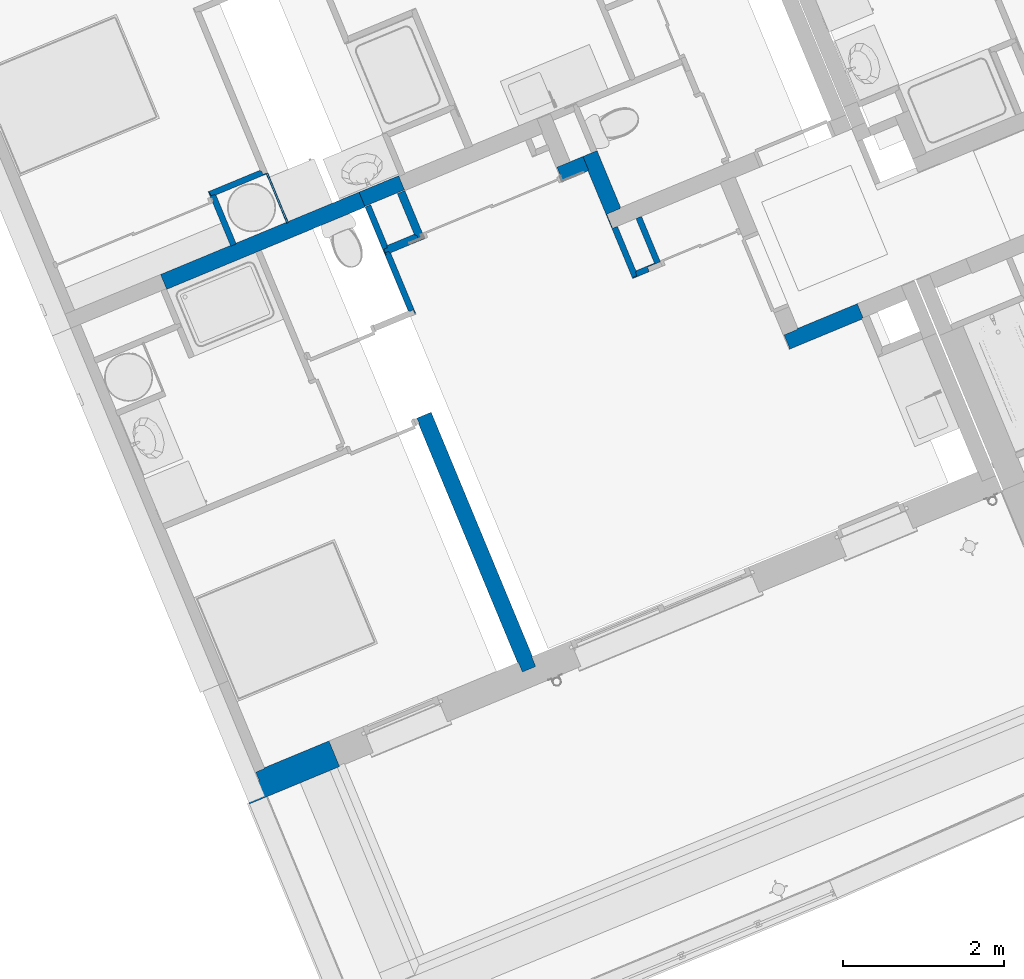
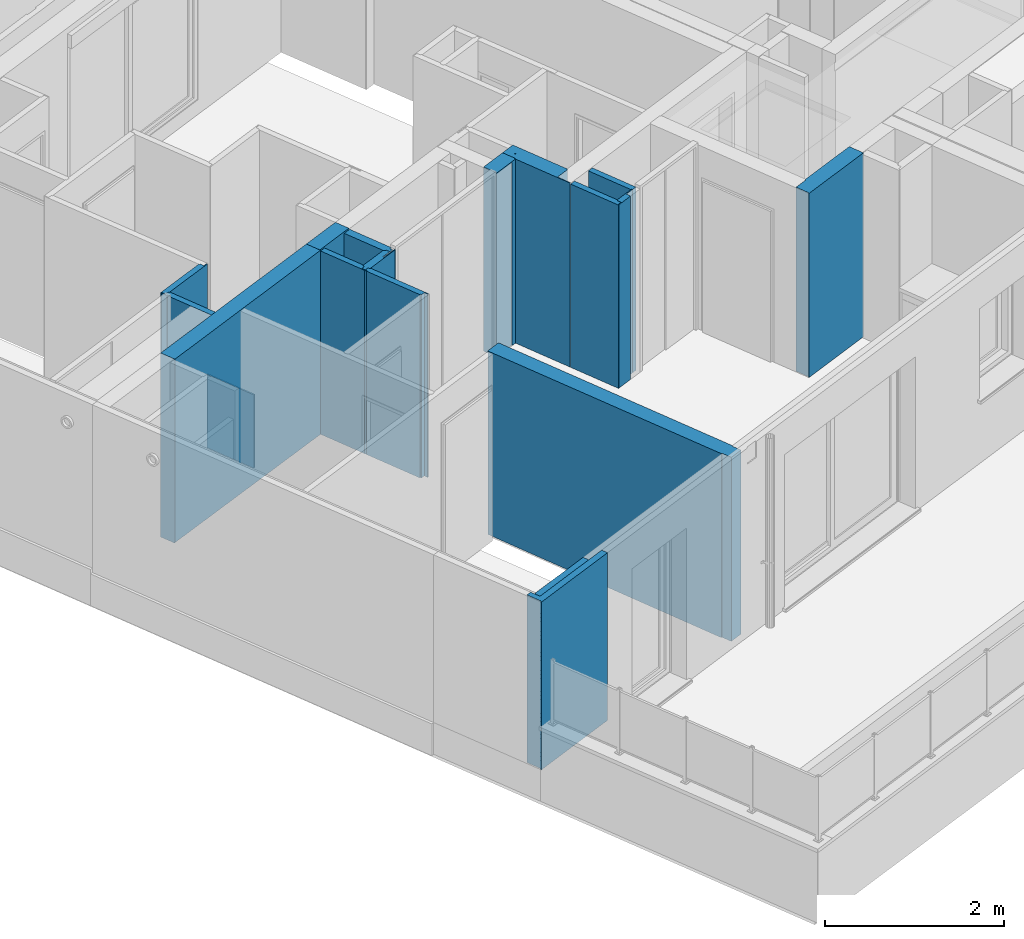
# One storey, part 36 of 119: 17 walls.
"""IFC2X3 building model written with IfcOpenShell, lengths in metres."""

from ifc_helpers import new_model, entity, si_unit, converted_unit, derived_unit, money_unit, direction, frame, origin_with_axes, place, context, subcontext, project, spatial, faceted_brep, material, material_list, type_object, element, save


model = new_model("IFC2X3")

# Units and contexts
model_context = context("Model", 3, precision=1e-05, world=origin_with_axes(), true_north=direction((0.0, 1.0)))
body_context = subcontext(model_context, "Body", "Model", "MODEL_VIEW")
ifc_project = project(units=[si_unit("LENGTHUNIT", "METRE"), si_unit("AREAUNIT", "SQUARE_METRE"), si_unit("VOLUMEUNIT", "CUBIC_METRE"), converted_unit("PLANEANGLEUNIT", "DEGREE", entity("IfcPlaneAngleMeasure", 0.0174532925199), si_unit("PLANEANGLEUNIT", "RADIAN"), dimensions=[0, 0, 0, 0, 0, 0, 0]), si_unit("SOLIDANGLEUNIT", "STERADIAN"), money_unit("EUR"), converted_unit("TIMEUNIT", "Year", entity("IfcTimeMeasure", 31556926.0), si_unit("TIMEUNIT", "SECOND"), dimensions=[0, 0, 1, 0, 0, 0, 0]), si_unit("MASSUNIT", "GRAM", prefix="KILO"), si_unit("THERMODYNAMICTEMPERATUREUNIT", "DEGREE_CELSIUS"), si_unit("LUMINOUSINTENSITYUNIT", "LUMEN"), si_unit("ENERGYUNIT", "JOULE", prefix="MEGA"), derived_unit("THERMALCONDUCTANCEUNIT", [(si_unit("POWERUNIT", "WATT"), 1), (si_unit("LENGTHUNIT", "METRE"), -1), (si_unit("THERMODYNAMICTEMPERATUREUNIT", "KELVIN"), -1)]), derived_unit("SPECIFICHEATCAPACITYUNIT", [(si_unit("ENERGYUNIT", "JOULE"), 1), (si_unit("MASSUNIT", "GRAM", prefix="KILO"), -1), (si_unit("THERMODYNAMICTEMPERATUREUNIT", "KELVIN"), -1)]), derived_unit("MASSDENSITYUNIT", [(si_unit("MASSUNIT", "GRAM", prefix="KILO"), 1), (si_unit("VOLUMEUNIT", "CUBIC_METRE"), -1)])], contexts=[model_context])

# Site, building, storey
site_placement = place(None, origin_with_axes())
site = spatial("IfcSite", under=ifc_project, at=site_placement, Name="Site", CompositionType="ELEMENT")
building_placement = place(site_placement, origin_with_axes())
building = spatial("IfcBuilding", under=site, at=building_placement, Name="Bâtiment", CompositionType="ELEMENT")
storey_placement = place(building_placement, origin_with_axes())
storey = spatial("IfcBuildingStorey", under=building, at=storey_placement, Name="Rez-de-chaussée", CompositionType="ELEMENT", Elevation=0.0)

# Walls
ifc_material_1 = material(Name="Finition int - Plaque de plâtre")
ifc_material_2 = material(Name="Isolation - Laine de roche")
ifc_material_list_1 = material_list([ifc_material_1, ifc_material_2, ifc_material_1])
wall_type_1 = type_object("IfcWallType", Name="3 - Cloison 72mm Placostil 74", PredefinedType="USERDEFINED")
wall_1_placement = place(storey_placement, frame((-28.9087260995, -22.4949369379, 0.0), z_axis=(0.0, 0.0, 1.0), x_axis=(-0.383112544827, 0.923701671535, 0.0)))
element("IfcWall", 1, at=wall_1_placement, inside=storey, type_object=wall_type_1, material=ifc_material_list_1, Name="Cloison Placostil 72/48", ObjectType="PARTITIONING", context=body_context, shape_type="Brep", body=[
    faceted_brep([(0.0740000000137, 0.061, 0.0), (0.826636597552, 0.061, 0.0), (0.826636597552, 0.061, 2.5), (0.0740000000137, 0.061, 2.5), (0.0740000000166, 0.074, 0.0), (0.82663659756, 0.074, 0.0), (0.82663659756, 0.074, 2.5), (0.0740000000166, 0.074, 2.5)], [[[0, 1, 2, 3]], [[4, 5, 1, 0]], [[5, 6, 2, 1]], [[3, 2, 6, 7]], [[7, 4, 0, 3]], [[7, 6, 5, 4]]]),
    faceted_brep([(0.0610000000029, 0.013, 0.0), (0.852636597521, 0.013, 0.0), (0.852636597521, 0.013, 2.5), (0.0610000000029, 0.013, 2.5), (0.0610000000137, 0.061, 0.0), (0.852636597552, 0.061, 0.0), (0.852636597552, 0.061, 2.5), (0.0610000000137, 0.061, 2.5)], [[[0, 1, 2, 3]], [[4, 5, 1, 0]], [[5, 6, 2, 1]], [[3, 2, 6, 7]], [[7, 4, 0, 3]], [[7, 6, 5, 4]]]),
    faceted_brep([(0.013, 0.0, 0.0), (0.826636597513, 0.0, 0.0), (0.826636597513, 0.0, 2.5), (0.013, 0.0, 2.5), (0.0130000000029, 0.013, 0.0), (0.826636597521, 0.013, 0.0), (0.826636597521, 0.013, 2.5), (0.0130000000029, 0.013, 2.5)], [[[0, 1, 2, 3]], [[4, 5, 1, 0]], [[5, 6, 2, 1]], [[3, 2, 6, 7]], [[7, 4, 0, 3]], [[7, 6, 5, 4]]]),
])
wall_2_placement = place(storey_placement, frame((-26.2126020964, -22.0522410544, 0.0), z_axis=(0.0, 0.0, 1.0), x_axis=(0.923701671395, 0.383112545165, 0.0)))
element("IfcWall", 2, at=wall_2_placement, inside=storey, type_object=wall_type_1, material=ifc_material_list_1, Name="Cloison Placostil 72/48", ObjectType="PARTITIONING", context=body_context, shape_type="Brep", body=[
    faceted_brep([(0.074000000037, 0.074, 0.0), (0.336999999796, 0.074, 0.0), (0.33699999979, 0.061, 0.0), (0.0740000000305, 0.061, 0.0), (0.074000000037, 0.074, 2.5), (0.336999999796, 0.074, 2.5), (0.33699999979, 0.061, 2.5), (0.0740000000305, 0.061, 2.5)], [[[0, 1, 2, 3]], [[4, 5, 1, 0]], [[6, 2, 1, 5]], [[3, 2, 6, 7]], [[7, 4, 0, 3]], [[7, 6, 5, 4]]]),
    faceted_brep([(0.0610000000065, 0.013, 0.0), (0.223999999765, 0.0130000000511, 0.0), (0.223999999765, 0.0130000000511, 2.5), (0.0610000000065, 0.013, 2.5), (0.0610000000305, 0.061, 0.0), (0.223999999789, 0.0610000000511, 0.0), (0.223999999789, 0.0610000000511, 2.5), (0.0610000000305, 0.061, 2.5)], [[[0, 1, 2, 3]], [[4, 5, 1, 0]], [[5, 6, 2, 1]], [[3, 2, 6, 7]], [[3, 7, 4, 0]], [[7, 6, 5, 4]]]),
    faceted_brep([(0.013, 0.0, 0.0), (0.223999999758, 0.0, 0.0), (0.223999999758, 0.0, 2.5), (0.013, 0.0, 2.5), (0.0130000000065, 0.013, 0.0), (0.223999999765, 0.0130000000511, 0.0), (0.223999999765, 0.0130000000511, 2.5), (0.0130000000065, 0.013, 2.5)], [[[0, 1, 2, 3]], [[4, 5, 1, 0]], [[5, 6, 2, 1]], [[3, 2, 6, 7]], [[3, 7, 4, 0]], [[7, 6, 5, 4]]]),
])
wall_3_placement = place(storey_placement, frame((-31.2182617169, -21.6405615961, 0.0), z_axis=(0.0, 0.0, 1.0), x_axis=(-0.383112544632, 0.923701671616, 0.0)))
element("IfcWall", 3, at=wall_3_placement, inside=storey, type_object=wall_type_1, material=ifc_material_list_1, Name="Cloison Placostil 72/48", ObjectType="PARTITIONING", context=body_context, shape_type="Brep", body=[
    faceted_brep([(0.589000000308, -0.013, 2.5), (0.58900000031, 0.0, 2.5), (-0.01, 0.0, 2.5), (-0.00999999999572, -0.013, 2.5), (0.589000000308, -0.013, 0.0), (0.58900000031, 0.0, 0.0), (-0.01, 0.0, 0.0), (-0.00999999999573, -0.013, 0.0)], [[[0, 1, 2, 3]], [[1, 0, 4, 5]], [[1, 5, 6, 2]], [[7, 3, 2, 6]], [[4, 0, 3, 7]], [[5, 4, 7, 6]]]),
    faceted_brep([(0.711000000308, -0.013, 2.5), (0.71100000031, 0.0, 2.5), (0.63700000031, 0.0, 2.5), (0.637000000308, -0.013, 2.5), (0.711000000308, -0.013, 0.0), (0.71100000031, 0.0, 0.0), (0.63700000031, 0.0, 0.0), (0.637000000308, -0.013, 0.0)], [[[0, 1, 2, 3]], [[1, 0, 4, 5]], [[1, 5, 6, 2]], [[7, 3, 2, 6]], [[4, 0, 3, 7]], [[5, 4, 7, 6]]]),
    faceted_brep([(0.663000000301, -0.061, 2.5), (0.663000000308, -0.013, 2.5), (-0.00999999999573, -0.013, 2.5), (-0.00999999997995, -0.061, 2.5), (0.663000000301, -0.061, 0.0), (0.663000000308, -0.013, 0.0), (-0.00999999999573, -0.013, 0.0), (-0.00999999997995, -0.061, 0.0)], [[[0, 1, 2, 3]], [[1, 0, 4, 5]], [[1, 5, 6, 2]], [[7, 3, 2, 6]], [[4, 0, 3, 7]], [[5, 4, 7, 6]]]),
    faceted_brep([(0.650000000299, -0.074, 2.5), (0.650000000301, -0.061, 2.5), (-0.00999999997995, -0.061, 2.5), (-0.00999999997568, -0.074, 2.5), (0.650000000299, -0.074, 0.0), (0.650000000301, -0.061, 0.0), (-0.00999999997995, -0.061, 0.0), (-0.00999999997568, -0.074, 0.0)], [[[0, 1, 2, 3]], [[1, 0, 4, 5]], [[1, 5, 6, 2]], [[7, 3, 2, 6]], [[4, 0, 3, 7]], [[5, 4, 7, 6]]]),
])
wall_4_placement = place(storey_placement, frame((-26.1715406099, -21.3055376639, 0.0), z_axis=(0.0, 0.0, 1.0), x_axis=(0.383112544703, -0.923701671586, 0.0)))
element("IfcWall", 4, at=wall_4_placement, inside=storey, type_object=wall_type_1, material=ifc_material_list_1, Name="Cloison Placostil 72/48", ObjectType="PARTITIONING", context=body_context, shape_type="Brep", body=[
    faceted_brep([(0.0, 0.061, 2.5), (0.612999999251, 0.061, 2.5), (0.612999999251, 0.074, 2.5), (0.0, 0.074, 2.5), (0.0, 0.061, 0.0), (0.612999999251, 0.061, 0.0), (0.612999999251, 0.074, 0.0), (0.0, 0.074, 0.0)], [[[0, 1, 2, 3]], [[4, 5, 1, 0]], [[5, 6, 2, 1]], [[3, 2, 6, 7]], [[0, 3, 7, 4]], [[7, 6, 5, 4]]]),
    faceted_brep([(0.0, 0.061, 0.0), (0.61299999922, 0.061, 0.0), (0.612999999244, 0.013, 0.0), (0.0, 0.013, 0.0), (0.0, 0.061, 2.5), (0.61299999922, 0.061, 2.5), (0.612999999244, 0.013, 2.5), (0.0, 0.013, 2.5)], [[[0, 1, 2, 3]], [[4, 5, 1, 0]], [[6, 2, 1, 5]], [[3, 2, 6, 7]], [[7, 4, 0, 3]], [[7, 6, 5, 4]]]),
    faceted_brep([(0.0, 0.013, 0.0), (0.599999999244, 0.013, 0.0), (0.59999999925, 0.0, 0.0), (0.0, 0.0, 0.0), (0.0, 0.013, 2.5), (0.599999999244, 0.013, 2.5), (0.59999999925, 0.0, 2.5), (0.0, 0.0, 2.5)], [[[0, 1, 2, 3]], [[4, 5, 1, 0]], [[6, 2, 1, 5]], [[3, 2, 6, 7]], [[7, 4, 0, 3]], [[7, 6, 5, 4]]]),
])
wall_5_placement = place(storey_placement, frame((-30.8490440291, -20.7036228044, 0.0), z_axis=(0.0, 0.0, 1.0), x_axis=(-0.923701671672, -0.383112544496, 0.0)))
element("IfcWall", 5, at=wall_5_placement, inside=storey, type_object=wall_type_1, material=ifc_material_list_1, Name="Cloison Placostil 72/48", ObjectType="PARTITIONING", context=body_context, shape_type="Brep", body=[
    faceted_brep([(0.638999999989, 0.074, 0.0), (0.638999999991, 0.061, 0.0), (-0.061000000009, 0.061, 0.0), (-0.0610000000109, 0.074, 0.0), (0.638999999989, 0.074, 2.5), (0.638999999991, 0.061, 2.5), (-0.061000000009, 0.061, 2.5), (-0.0610000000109, 0.074, 2.5)], [[[0, 1, 2, 3]], [[1, 0, 4, 5]], [[1, 5, 6, 2]], [[7, 3, 2, 6]], [[4, 0, 3, 7]], [[5, 4, 7, 6]]]),
    faceted_brep([(0.686999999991, 0.061, 0.0), (0.686999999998, 0.013, 0.0), (-0.0130000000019, 0.013, 0.0), (-0.013000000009, 0.061, 0.0), (0.686999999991, 0.061, 2.5), (0.686999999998, 0.013, 2.5), (-0.0130000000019, 0.013, 2.5), (-0.013000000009, 0.061, 2.5)], [[[0, 1, 2, 3]], [[1, 0, 4, 5]], [[1, 5, 6, 2]], [[7, 3, 2, 6]], [[4, 0, 3, 7]], [[5, 4, 7, 6]]]),
    faceted_brep([(0.699999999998, 0.013, 0.0), (0.7, 0.0, 0.0), (0.0, 0.0, 0.0), (0.0, 0.013, 0.0), (0.699999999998, 0.013, 2.5), (0.7, 0.0, 2.5), (0.0, 0.0, 2.5), (0.0, 0.013, 2.5)], [[[0, 1, 2, 3]], [[1, 0, 4, 5]], [[1, 5, 6, 2]], [[7, 3, 2, 6]], [[4, 0, 3, 7]], [[5, 4, 7, 6]]]),
])
wall_6_placement = place(storey_placement, frame((-26.4708199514, -21.429666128, 0.0), z_axis=(0.0, 0.0, 1.0), x_axis=(0.383112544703, -0.923701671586, 0.0)))
element("IfcWall", 6, at=wall_6_placement, inside=storey, type_object=wall_type_1, material=ifc_material_list_1, Name="Cloison Placostil 72/48", ObjectType="PARTITIONING", context=body_context, shape_type="Brep", body=[
    faceted_brep([(0.612999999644, 0.074, 0.0), (0.61299999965, 0.061, 0.0), (0.0, 0.061, 0.0), (0.0, 0.074, 0.0), (0.612999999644, 0.074, 2.5), (0.61299999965, 0.061, 2.5), (0.0, 0.061, 2.5), (0.0, 0.074, 2.5)], [[[0, 1, 2, 3]], [[1, 0, 4, 5]], [[1, 5, 6, 2]], [[7, 3, 2, 6]], [[4, 0, 3, 7]], [[5, 4, 7, 6]]]),
    faceted_brep([(0.66099999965, 0.061, 0.0), (0.660999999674, 0.013, 0.0), (0.0, 0.013, 0.0), (0.0, 0.061, 0.0), (0.66099999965, 0.061, 2.5), (0.660999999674, 0.013, 2.5), (0.0, 0.013, 2.5), (0.0, 0.061, 2.5)], [[[0, 1, 2, 3]], [[1, 0, 4, 5]], [[1, 5, 6, 2]], [[7, 3, 2, 6]], [[4, 0, 3, 7]], [[5, 4, 7, 6]]]),
    faceted_brep([(0.673999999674, 0.013, 0.0), (0.67399999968, 0.0, 0.0), (0.0, 0.0, 0.0), (0.0, 0.013, 0.0), (0.673999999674, 0.013, 2.5), (0.67399999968, 0.0, 2.5), (0.0, 0.0, 2.5), (0.0, 0.013, 2.5)], [[[0, 1, 2, 3]], [[1, 0, 4, 5]], [[1, 5, 6, 2]], [[7, 3, 2, 6]], [[4, 0, 3, 7]], [[5, 4, 7, 6]]]),
])
ifc_material_3 = material(Name="Finition int - Enduit plâtre")
ifc_material_4 = material(Name="Béton")
ifc_material_list_2 = material_list([ifc_material_3, ifc_material_4, ifc_material_3])
wall_type_2 = type_object("IfcWallType", Name="2 - Murs Béton 18 + Enduit 2 Faces 200", PredefinedType="USERDEFINED")
wall_7_placement = place(storey_placement, frame((-32.0883886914, -22.0014536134, 0.0), z_axis=(0.0, 0.0, 1.0), x_axis=(0.92370167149, 0.383112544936, 0.0)))
element("IfcWall", 7, at=wall_7_placement, inside=storey, type_object=wall_type_2, material=ifc_material_list_2, Name="M_Ext-008", ObjectType="SOLIDWALL", context=body_context, shape_type="Brep", body=[
    faceted_brep([(2.67399999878, 0.0, 2.51), (2.67399999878, -0.01, 2.51), (2.67399999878, -0.01, 0.0), (2.67399999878, 0.0, 0.0), (0.0, -0.01, 2.51), (0.0, 0.0, 2.51), (0.0, -0.01, 0.0), (0.941999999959, -0.01, 0.0), (0.941999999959, -0.01, 2.5), (1.01599999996, -0.01, 2.5), (1.01599999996, -0.01, 0.0), (1.69600000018, -0.01, 0.0), (1.69600000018, -0.01, 1.0), (1.71600000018, -0.01, 1.0), (1.71600000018, -0.01, 0.0), (1.71600000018, 0.0, 0.0), (1.71600000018, 0.0, 1.0), (1.69600000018, 0.0, 1.0), (1.69600000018, 0.0, 0.0), (1.01599999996, 0.0, 0.0), (1.01599999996, 0.0, 2.5), (0.941999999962, 0.0, 2.5), (0.941999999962, 0.0, 0.0), (0.0, 0.0, 0.0)], [[[0, 1, 2, 3]], [[4, 1, 0, 5]], [[1, 4, 6, 7, 8, 9, 10, 11, 12, 13, 14, 2]], [[2, 14, 15, 3]], [[5, 0, 3, 15, 16, 17, 18, 19, 20, 21, 22, 23]], [[4, 5, 23, 6]], [[23, 22, 7, 6]], [[21, 8, 7, 22]], [[20, 9, 8, 21]], [[19, 10, 9, 20]], [[19, 18, 11, 10]], [[17, 12, 11, 18]], [[16, 13, 12, 17]], [[15, 14, 13, 16]]]),
    faceted_brep([(2.67399999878, -0.01, 2.51), (2.67399999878, -0.19, 2.51), (2.67399999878, -0.19, 0.0), (2.67399999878, -0.01, 0.0), (0.0, -0.19, 2.51), (0.0, -0.01, 2.51), (0.0, -0.19, 0.0), (0.0, -0.01, 0.0)], [[[0, 1, 2, 3]], [[4, 1, 0, 5]], [[1, 4, 6, 2]], [[7, 3, 2, 6]], [[5, 0, 3, 7]], [[4, 5, 7, 6]]]),
    faceted_brep([(0.0, -0.2, 0.02), (2.67399998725, -0.200000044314, 0.02), (2.67399999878, -0.2, 2.51), (0.0, -0.2, 2.51), (0.0, -0.193021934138, 0.02), (2.67399998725, -0.200000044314, 0.0), (2.67399999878, -0.19, 0.0), (2.67399999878, -0.19, 2.51), (0.0, -0.19, 2.51), (0.0, -0.19, 0.0), (0.0, -0.193021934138, 0.0)], [[[0, 1, 2, 3]], [[1, 0, 4]], [[1, 5, 6, 7, 2]], [[8, 3, 2, 7]], [[4, 0, 3, 8, 9, 10]], [[5, 1, 4, 10]], [[5, 10, 9, 6]], [[9, 8, 7, 6]]]),
])
wall_8_placement = place(storey_placement, frame((-27.3367270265, -27.0787857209, 0.0), z_axis=(0.0, 0.0, 1.0), x_axis=(-0.383112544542, 0.923701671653, 0.0)))
element("IfcWall", 8, at=wall_8_placement, inside=storey, type_object=wall_type_2, material=ifc_material_list_2, Name="M_Ext-008", ObjectType="SOLIDWALL", context=body_context, shape_type="Brep", body=[
    faceted_brep([(3.56273685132, 0.19, 0.02), (0.344999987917, 0.19, 0.02), (0.344999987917, 0.19, 2.51), (3.63673685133, 0.19, 2.51), (3.63673685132, 0.19, 2.5), (3.56273685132, 0.19, 2.5), (3.56273685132, 0.180224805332, 0.02), (0.344999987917, 0.19, 0.0), (0.344999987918, 0.18, 0.0), (0.344999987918, 0.18, 2.51), (3.63673685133, 0.18, 2.51), (3.63673685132, 0.18, 2.5), (3.56273685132, 0.18, 2.5), (3.56273685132, 0.18, 0.0), (3.56273685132, 0.180224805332, 0.0)], [[[0, 1, 2, 3, 4, 5]], [[1, 0, 6]], [[1, 7, 8, 9, 2]], [[2, 9, 10, 3]], [[3, 10, 11, 4]], [[11, 12, 5, 4]], [[6, 0, 5, 12, 13, 14]], [[14, 7, 1, 6]], [[7, 14, 13, 8]], [[10, 9, 8, 13, 12, 11]]]),
    faceted_brep([(3.63673685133, 0.0, 2.51), (0.214999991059, 0.0, 2.51), (0.214999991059, 0.0, 0.0), (3.63673685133, 0.0, 0.0), (3.63673685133, 0.0, 2.5), (0.214999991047, 0.18, 2.51), (3.63673685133, 0.18, 2.51), (0.214999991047, 0.18, 0.0), (3.63673685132, 0.18, 0.0), (3.63673685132, 0.18, 2.5)], [[[0, 1, 2, 3, 4]], [[5, 1, 0, 6]], [[1, 5, 7, 2]], [[3, 2, 7, 8]], [[3, 8, 9, 4]], [[6, 0, 4, 9]], [[5, 6, 9, 8, 7]]]),
    faceted_brep([(3.63673685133, -0.01, 2.51), (0.344999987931, -0.01, 2.51), (0.344999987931, -0.01, 0.0), (3.63673685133, -0.01, 0.0), (3.63673685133, -0.01, 2.5), (0.34499998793, 0.0, 2.51), (3.63673685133, 0.0, 2.51), (0.34499998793, 0.0, 0.0), (3.63673685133, 0.0, 0.0), (3.63673685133, 0.0, 2.5)], [[[0, 1, 2, 3, 4]], [[5, 1, 0, 6]], [[1, 5, 7, 2]], [[3, 2, 7, 8]], [[3, 8, 9, 4]], [[6, 0, 4, 9]], [[5, 6, 9, 8, 7]]]),
])
wall_9_placement = place(storey_placement, frame((-26.46541406, -21.4165979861, 0.0), z_axis=(0.0, 0.0, 1.0), x_axis=(-0.383112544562, 0.923701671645, 0.0)))
element("IfcWall", 9, at=wall_9_placement, inside=storey, type_object=wall_type_2, material=ifc_material_list_2, Name="M_Ext-008", ObjectType="SOLIDWALL", context=body_context, shape_type="Brep", body=[
    faceted_brep([(0.776636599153, 0.0, 2.51), (0.0, 0.0, 2.51), (0.0, 0.0, 0.0), (0.776636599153, 0.0, 0.0), (0.0, 0.01, 2.51), (0.77663659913, 0.01, 2.51), (0.0, 0.01, 0.0), (0.77663659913, 0.01, 0.0)], [[[0, 1, 2, 3]], [[4, 1, 0, 5]], [[1, 4, 6, 2]], [[7, 3, 2, 6]], [[5, 0, 3, 7]], [[4, 5, 7, 6]]]),
    faceted_brep([(0.956636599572, -0.18, 2.51), (0.829521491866, -0.18, 2.51), (0.620469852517, -0.18, 2.51), (0.180000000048, -0.18, 2.51), (0.180000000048, -0.18, 0.0), (0.956636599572, -0.18, 0.0), (0.18, 0.0, 2.51), (0.820532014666, -0.068, 2.51), (0.832919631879, -0.0610650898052, 2.51), (0.832721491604, -0.068, 2.51), (0.956636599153, 0.0, 2.51), (0.18, 0.0, 0.0), (0.956636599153, 0.0, 0.0), (0.820532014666, -0.068, 2.52), (0.832919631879, -0.0610650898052, 2.52), (0.832721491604, -0.068, 2.52)], [[[0, 1, 2, 3, 4, 5]], [[6, 3, 2, 7, 8, 9, 1, 0, 10]], [[7, 2, 1, 9]], [[3, 6, 11, 4]], [[12, 5, 4, 11]], [[10, 0, 5, 12]], [[7, 13, 14, 8]], [[14, 15, 9, 8]], [[6, 10, 12, 11]], [[13, 7, 9, 15]], [[14, 13, 15]]]),
    faceted_brep([(0.602607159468, -0.19, 2.51), (0.190000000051, -0.19, 2.51), (0.190000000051, -0.19, 0.0), (0.956636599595, -0.19, 0.0), (0.956636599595, -0.19, 2.51), (0.829235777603, -0.19, 2.51), (0.190000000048, -0.18, 2.51), (0.620469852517, -0.18, 2.51), (0.190000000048, -0.18, 0.0), (0.956636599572, -0.18, 0.0), (0.956636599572, -0.18, 2.51), (0.829521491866, -0.18, 2.51)], [[[0, 1, 2, 3, 4, 5]], [[6, 1, 0, 7]], [[1, 6, 8, 2]], [[9, 3, 2, 8]], [[10, 4, 3, 9]], [[11, 5, 4, 10]], [[7, 0, 5, 11]], [[6, 7, 11, 10, 9, 8]]]),
])
wall_10_placement = place(storey_placement, frame((-24.1618163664, -22.6847293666, 0.0), z_axis=(0.0, 0.0, 1.0), x_axis=(0.923701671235, 0.383112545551, 0.0)))
element("IfcWall", 10, at=wall_10_placement, inside=storey, type_object=wall_type_2, material=ifc_material_list_2, Name="M_Ext-008", ObjectType="SOLIDWALL", context=body_context, shape_type="Brep", body=[
    faceted_brep([(0.810000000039, 0.00929352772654, 0.02), (0.810000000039, 0.00999999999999, 0.02), (0.810000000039, 0.01, 2.51), (0.810000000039, 0.0, 2.51), (0.810000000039, 0.0, 0.0), (0.810000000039, 0.00929352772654, 0.0), (0.0100000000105, 0.01, 0.02), (0.0100000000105, 0.01, 0.0), (0.0, 0.01, 0.0), (0.0, 0.01, 2.51), (0.0, 0.0, 2.51), (0.0, 0.0, 0.0)], [[[0, 1, 2, 3, 4, 5]], [[1, 0, 6]], [[6, 7, 8, 9, 2, 1]], [[2, 9, 10, 3]], [[11, 4, 3, 10]], [[8, 7, 5, 4, 11]], [[7, 6, 0, 5]], [[8, 11, 10, 9]]]),
    faceted_brep([(0.810000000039, 0.0, 2.51), (0.810000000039, -0.18, 2.51), (0.810000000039, -0.18, 0.0), (0.810000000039, 0.0, 0.0), (-0.180000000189, -0.18, 2.51), (-0.18, 0.0, 2.51), (-0.180000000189, -0.18, 0.0), (-0.18, 0.0, 0.0)], [[[0, 1, 2, 3]], [[4, 1, 0, 5]], [[1, 4, 6, 2]], [[7, 3, 2, 6]], [[5, 0, 3, 7]], [[4, 5, 7, 6]]]),
    faceted_brep([(0.810000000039, -0.18, 2.51), (0.810000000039, -0.19, 2.51), (0.810000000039, -0.19, 0.0), (0.810000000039, -0.18, 0.0), (-0.190000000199, -0.19, 2.51), (-0.190000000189, -0.18, 2.51), (-0.190000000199, -0.19, 0.0), (-0.190000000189, -0.18, 0.0)], [[[0, 1, 2, 3]], [[4, 1, 0, 5]], [[1, 4, 6, 2]], [[7, 3, 2, 6]], [[5, 0, 3, 7]], [[4, 5, 7, 6]]]),
])
wall_type_3 = type_object("IfcWallType", Name="3 - Cloison Gaine Technique 72mm 74", PredefinedType="USERDEFINED")
wall_11_placement = place(storey_placement, frame((-29.22542095, -21.7313713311, 0.0), z_axis=(0.0, 0.0, 1.0), x_axis=(-0.383112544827, 0.923701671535, 0.0)))
element("IfcWall", 11, at=wall_11_placement, inside=storey, type_object=wall_type_3, material=ifc_material_list_1, Name="Cloison Placostil 72/48", ObjectType="PARTITIONING", context=body_context, shape_type="Brep", body=[
    faceted_brep([(0.0260000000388, 0.061, 0.0), (0.026000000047, 0.074, 0.0), (0.6473634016, 0.074, 0.0), (0.6473634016, 0.061, 0.0), (0.0260000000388, 0.061, 2.5), (0.026000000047, 0.074, 2.5), (0.6473634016, 0.074, 2.5), (0.6473634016, 0.061, 2.5)], [[[0, 1, 2, 3]], [[4, 5, 1, 0]], [[1, 5, 6, 2]], [[7, 3, 2, 6]], [[4, 0, 3, 7]], [[5, 4, 7, 6]]]),
    faceted_brep([(0.0740000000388, 0.061, 0.0), (0.6473634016, 0.061, 0.0), (0.6473634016, 0.013, 0.0), (0.0740000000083, 0.013, 0.0), (0.0740000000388, 0.061, 2.5), (0.6473634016, 0.061, 2.5), (0.6473634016, 0.013, 2.5), (0.0740000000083, 0.013, 2.5)], [[[0, 1, 2, 3]], [[4, 5, 1, 0]], [[2, 1, 5, 6]], [[3, 2, 6, 7]], [[4, 0, 3, 7]], [[7, 6, 5, 4]]]),
    faceted_brep([(0.100000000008, 0.013, 0.0), (0.6473634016, 0.013, 0.0), (0.6473634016, 0.0, 0.0), (0.1, 0.0, 0.0), (0.100000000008, 0.013, 2.5), (0.6473634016, 0.013, 2.5), (0.6473634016, 0.0, 2.5), (0.1, 0.0, 2.5)], [[[0, 1, 2, 3]], [[4, 5, 1, 0]], [[2, 1, 5, 6]], [[3, 2, 6, 7]], [[4, 0, 3, 7]], [[7, 6, 5, 4]]]),
])
ifc_material_list_3 = material_list([ifc_material_3, ifc_material_4])
wall_type_4 = type_object("IfcWallType", Name="2 - Murs Béton 18 + Enduit 1 Face 190", PredefinedType="USERDEFINED")
wall_12_placement = place(storey_placement, frame((-26.7591221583, -20.7084544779, 0.0), z_axis=(0.0, 0.0, 1.0), x_axis=(-0.923701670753, -0.383112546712, 0.0)))
element("IfcWall", 12, at=wall_12_placement, inside=storey, type_object=wall_type_4, material=ifc_material_list_3, Name="M_Ext-008", ObjectType="SOLIDWALL", context=body_context, shape_type="Brep", body=[
    faceted_brep([(0.00999999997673, -0.01, 2.51), (0.01, 0.0, 2.51), (0.01, 0.0, 0.0), (0.00999999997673, -0.01, 0.0), (0.360000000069, 0.0, 2.51), (0.360000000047, -0.01, 2.51), (0.360000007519, -1.31257493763e-09, 2.5), (0.0699999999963, -9.5200292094e-10, 2.5), (0.0699999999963, -9.5200292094e-10, 0.0), (0.0699999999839, -0.01, 0.0), (0.0699999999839, -0.01, 2.5), (0.360000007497, -0.01, 2.5)], [[[0, 1, 2, 3]], [[4, 1, 0, 5]], [[1, 4, 6, 7, 8, 2]], [[2, 8, 9, 3]], [[5, 0, 3, 9, 10, 11]], [[4, 5, 11, 6]], [[10, 7, 6, 11]], [[9, 8, 7, 10]]]),
    faceted_brep([(-4.42241798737e-10, -0.19, 2.51), (0.0, -0.01, 2.51), (0.0, -0.01, 0.0), (-4.4223469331e-10, -0.19, 0.0), (0.350000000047, -0.01, 2.51), (0.349999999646, -0.19, 2.51), (0.350000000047, -0.01, 0.0), (0.349999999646, -0.19, 0.0)], [[[0, 1, 2, 3]], [[4, 1, 0, 5]], [[1, 4, 6, 2]], [[2, 6, 7, 3]], [[5, 0, 3, 7]], [[4, 5, 7, 6]]]),
])
wall_13_placement = place(storey_placement, frame((-29.618410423, -20.9770106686, 0.0), z_axis=(0.0, 0.0, 1.0), x_axis=(0.923701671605, 0.383112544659, 0.0)))
element("IfcWall", 13, at=wall_13_placement, inside=storey, type_object=wall_type_4, material=ifc_material_list_3, Name="M_Ext-008", ObjectType="SOLIDWALL", context=body_context, shape_type="Brep", body=[
    faceted_brep([(0.534000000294, 0.0, 2.51), (0.534000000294, -0.01, 2.51), (0.534000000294, -0.01, 0.0), (0.534000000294, 0.0, 0.0), (0.0, -0.01, 2.51), (0.0, 0.0, 2.51), (0.0, -0.01, 0.0), (0.0, 0.0, 0.0)], [[[0, 1, 2, 3]], [[4, 1, 0, 5]], [[1, 4, 6, 2]], [[7, 3, 2, 6]], [[5, 0, 3, 7]], [[4, 5, 7, 6]]]),
    faceted_brep([(0.534000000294, -0.01, 2.51), (0.534000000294, -0.19, 2.51), (0.534000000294, -0.19, 0.0), (0.534000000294, -0.01, 0.0), (0.0, -0.19, 2.51), (0.0, -0.01, 2.51), (0.0, -0.19, 0.0), (0.0, -0.01, 0.0)], [[[0, 1, 2, 3]], [[4, 1, 0, 5]], [[1, 4, 6, 2]], [[7, 3, 2, 6]], [[5, 0, 3, 7]], [[4, 5, 7, 6]]]),
])
ifc_material_list_4 = material_list([ifc_material_1, ifc_material_1, ifc_material_2, ifc_material_1, ifc_material_1])
wall_type_5 = type_object("IfcWallType", Name="3 - Cloison Gaine Technique 98mm 100", PredefinedType="USERDEFINED")
wall_14_placement = place(storey_placement, frame((-28.8005181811, -21.5551395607, 0.0), z_axis=(0.0, 0.0, 1.0), x_axis=(-0.923701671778, -0.38311254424, 0.0)))
element("IfcWall", 14, at=wall_14_placement, inside=storey, type_object=wall_type_5, material=ifc_material_list_4, Name="Cloison 98 isolée", ObjectType="PARTITIONING", context=body_context, shape_type="Brep", body=[
    faceted_brep([(0.533999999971, 0.0, 0.0), (0.520999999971, 0.0, 0.0), (0.520999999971, 0.0, 2.5), (0.533999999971, 0.0, 2.5), (0.533999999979, -0.013, 0.0), (0.520999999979, -0.013, 0.0), (0.520999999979, -0.013, 2.5), (0.533999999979, -0.013, 2.5)], [[[0, 1, 2, 3]], [[4, 5, 1, 0]], [[5, 6, 2, 1]], [[3, 2, 6, 7]], [[0, 3, 7, 4]], [[7, 6, 5, 4]]]),
    faceted_brep([(0.0130000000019, -0.013, 2.5), (0.472999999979, -0.013, 2.5), (0.472999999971, 0.0, 2.5), (0.013, 0.0, 2.5), (0.0130000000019, -0.013, 0.0), (0.472999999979, -0.013, 0.0), (0.472999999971, 0.0, 0.0), (0.013, 0.0, 0.0)], [[[0, 1, 2, 3]], [[4, 5, 1, 0]], [[5, 6, 2, 1]], [[3, 2, 6, 7]], [[7, 4, 0, 3]], [[7, 6, 5, 4]]]),
    faceted_brep([(0.533999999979, -0.013, 0.0), (0.520999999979, -0.013, 0.0), (0.520999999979, -0.013, 2.5), (0.533999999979, -0.013, 2.5), (0.533999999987, -0.026, 0.0), (0.520999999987, -0.026, 0.0), (0.520999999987, -0.026, 2.5), (0.533999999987, -0.026, 2.5)], [[[0, 1, 2, 3]], [[4, 5, 1, 0]], [[5, 6, 2, 1]], [[3, 2, 6, 7]], [[0, 3, 7, 4]], [[7, 6, 5, 4]]]),
    faceted_brep([(0.472999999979, -0.013, 0.0), (0.200000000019, -0.012999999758, 0.0), (0.200000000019, -0.012999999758, 2.5), (0.472999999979, -0.013, 2.5), (0.472999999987, -0.026, 0.0), (0.200000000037, -0.0259999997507, 0.0), (0.200000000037, -0.0259999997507, 2.5), (0.472999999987, -0.026, 2.5)], [[[0, 1, 2, 3]], [[4, 5, 1, 0]], [[5, 6, 2, 1]], [[3, 2, 6, 7]], [[4, 0, 3, 7]], [[7, 6, 5, 4]]]),
    faceted_brep([(0.0740000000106, -0.074, 2.5), (0.521000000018, -0.074, 2.5), (0.520999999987, -0.026, 2.5), (0.0740000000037, -0.026, 2.5), (0.0740000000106, -0.074, 0.0), (0.521000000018, -0.074, 0.0), (0.520999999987, -0.026, 0.0), (0.0740000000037, -0.026, 0.0)], [[[0, 1, 2, 3]], [[4, 5, 1, 0]], [[6, 2, 1, 5]], [[3, 2, 6, 7]], [[7, 4, 0, 3]], [[7, 6, 5, 4]]]),
    faceted_brep([(0.0870000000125, -0.087, 2.5), (0.473000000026, -0.087, 2.5), (0.473000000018, -0.074, 2.5), (0.0870000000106, -0.074, 2.5), (0.0870000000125, -0.087, 0.0), (0.473000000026, -0.087, 0.0), (0.473000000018, -0.074, 0.0), (0.0870000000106, -0.074, 0.0)], [[[0, 1, 2, 3]], [[4, 5, 1, 0]], [[6, 2, 1, 5]], [[3, 2, 6, 7]], [[7, 4, 0, 3]], [[7, 6, 5, 4]]]),
    faceted_brep([(0.100000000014, -0.1, 2.5), (0.473000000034, -0.1, 2.5), (0.473000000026, -0.087, 2.5), (0.100000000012, -0.087, 2.5), (0.100000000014, -0.1, 0.0), (0.473000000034, -0.1, 0.0), (0.473000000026, -0.087, 0.0), (0.100000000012, -0.087, 0.0)], [[[0, 1, 2, 3]], [[4, 5, 1, 0]], [[6, 2, 1, 5]], [[3, 2, 6, 7]], [[7, 4, 0, 3]], [[7, 6, 5, 4]]]),
])
wall_15_placement = place(storey_placement, frame((-28.8005181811, -21.5551395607, 0.0), z_axis=(0.0, 0.0, 1.0), x_axis=(-0.383112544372, 0.923701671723, 0.0)))
element("IfcWall", 15, at=wall_15_placement, inside=storey, type_object=wall_type_5, material=ifc_material_list_4, Name="Cloison 98 isolée", ObjectType="PARTITIONING", context=body_context, shape_type="Brep", body=[
    faceted_brep([(0.0870000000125, 0.087, 0.0), (0.0870000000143, 0.1, 0.0), (0.64736340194, 0.1, 0.0), (0.64736340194, 0.087, 0.0), (0.0870000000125, 0.087, 2.5), (0.0870000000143, 0.1, 2.5), (0.64736340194, 0.1, 2.5), (0.64736340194, 0.087, 2.5)], [[[0, 1, 2, 3]], [[4, 5, 1, 0]], [[1, 5, 6, 2]], [[7, 3, 2, 6]], [[4, 0, 3, 7]], [[5, 4, 7, 6]]]),
    faceted_brep([(0.0740000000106, 0.074, 0.0), (0.0740000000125, 0.087, 0.0), (0.64736340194, 0.087, 0.0), (0.64736340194, 0.074, 0.0), (0.0740000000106, 0.074, 2.5), (0.0740000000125, 0.087, 2.5), (0.64736340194, 0.087, 2.5), (0.64736340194, 0.074, 2.5)], [[[0, 1, 2, 3]], [[4, 5, 1, 0]], [[1, 5, 6, 2]], [[7, 3, 2, 6]], [[4, 0, 3, 7]], [[5, 4, 7, 6]]]),
    faceted_brep([(0.0260000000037, 0.026, 0.0), (0.0260000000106, 0.074, 0.0), (0.64736340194, 0.074, 0.0), (0.64736340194, 0.026, 0.0), (0.0260000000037, 0.026, 2.5), (0.0260000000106, 0.074, 2.5), (0.64736340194, 0.074, 2.5), (0.64736340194, 0.026, 2.5)], [[[0, 1, 2, 3]], [[4, 5, 1, 0]], [[1, 5, 6, 2]], [[7, 3, 2, 6]], [[4, 0, 3, 7]], [[5, 4, 7, 6]]]),
    faceted_brep([(0.64736340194, 0.026, 2.5), (0.0610000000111, 0.026, 2.5), (0.0610000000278, 0.013, 2.5), (0.64736340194, 0.013, 2.5), (0.64736340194, 0.026, 0.0), (0.0610000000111, 0.026, 0.0), (0.0610000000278, 0.013, 0.0), (0.64736340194, 0.013, 0.0)], [[[0, 1, 2, 3]], [[4, 5, 1, 0]], [[5, 6, 2, 1]], [[3, 2, 6, 7]], [[3, 7, 4, 0]], [[7, 6, 5, 4]]]),
    faceted_brep([(0.64736340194, 0.013, 2.5), (0.0610000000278, 0.013, 2.5), (0.0610000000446, 0.0, 2.5), (0.64736340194, 0.0, 2.5), (0.64736340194, 0.013, 0.0), (0.0610000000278, 0.013, 0.0), (0.0610000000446, 0.0, 0.0), (0.64736340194, 0.0, 0.0)], [[[0, 1, 2, 3]], [[4, 5, 1, 0]], [[5, 6, 2, 1]], [[3, 2, 6, 7]], [[3, 7, 4, 0]], [[7, 6, 5, 4]]]),
    faceted_brep([(0.0, 0.0, 0.0), (0.0130000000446, 0.0, 0.0), (0.0130000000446, 0.0, 2.5), (0.0, 0.0, 2.5), (0.0, 0.013, 0.0), (0.0130000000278, 0.013, 0.0), (0.0130000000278, 0.013, 2.5), (0.0, 0.013, 2.5)], [[[0, 1, 2, 3]], [[4, 5, 1, 0]], [[5, 6, 2, 1]], [[3, 2, 6, 7]], [[3, 7, 4, 0]], [[7, 6, 5, 4]]]),
])
ifc_material_5 = material(Name="Isolation - Polystyrène extrudé")
ifc_material_6 = material(Name="Etanchéité résine")
ifc_material_7 = material(Name="Finition ext - Crépis")
ifc_material_list_5 = material_list([ifc_material_1, ifc_material_5, ifc_material_6, ifc_material_4, ifc_material_7])
wall_type_6 = type_object("IfcWallType", Name="1 - Mur Extérieur BETON étanché+Isolant 120 + ravalement 345", PredefinedType="USERDEFINED")
wall_16_placement = place(storey_placement, frame((-30.9744023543, -28.571301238, 0.433099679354), z_axis=(0.0, 0.0, 1.0), x_axis=(0.923701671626, 0.383112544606, 0.0)))
element("IfcWall", 16, at=wall_16_placement, inside=storey, type_object=wall_type_6, material=ifc_material_list_5, Name="M_Ext-009", ObjectType="SOLIDWALL", context=body_context, shape_type="Brep", body=[
    faceted_brep([(1.19999999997, 0.33, 2.07690032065), (1.19999999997, 0.32, 2.07690032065), (1.19999999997, 0.32, 0.0), (1.19999999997, 0.33, 0.0), (0.319999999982, 0.32, 2.07690032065), (0.319999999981, 0.33, 2.07690032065), (0.319999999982, 0.32, 0.0), (0.319999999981, 0.33, 0.0)], [[[0, 1, 2, 3]], [[4, 1, 0, 5]], [[1, 4, 6, 2]], [[7, 3, 2, 6]], [[5, 0, 3, 7]], [[4, 5, 7, 6]]]),
    faceted_brep([(1.19999999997, 0.32, 2.07690032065), (1.19999999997, 0.21, 2.07690032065), (1.19999999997, 0.21, 0.0), (1.19999999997, 0.32, 0.0), (0.209999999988, 0.21, 2.07690032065), (0.209999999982, 0.32, 2.07690032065), (0.209999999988, 0.21, 0.0), (0.209999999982, 0.32, 0.0)], [[[0, 1, 2, 3]], [[4, 1, 0, 5]], [[1, 4, 6, 2]], [[7, 3, 2, 6]], [[5, 0, 3, 7]], [[4, 5, 7, 6]]]),
    faceted_brep([(1.19999999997, 0.21, 2.07690032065), (1.19999999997, 0.2, 2.07690032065), (1.19999999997, 0.2, 0.0), (1.19999999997, 0.21, 0.0), (0.199999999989, 0.2, 2.07690032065), (0.199999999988, 0.21, 2.07690032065), (0.199999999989, 0.2, 0.0), (0.199999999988, 0.21, 0.0)], [[[0, 1, 2, 3]], [[4, 1, 0, 5]], [[1, 4, 6, 2]], [[7, 3, 2, 6]], [[5, 0, 3, 7]], [[4, 5, 7, 6]]]),
    faceted_brep([(1.19999999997, 0.2, 2.07690032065), (1.19999999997, 0.067999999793, 2.07690032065), (1.19999999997, 0.067999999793, 2.28690032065), (1.19999999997, 0.0, 2.28690032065), (1.19999999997, 0.0, 0.0), (1.19999999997, 0.2, 0.0), (0.0679999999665, 0.2, 2.07690032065), (0.0679999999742, 0.0679999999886, 2.07690032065), (0.0679999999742, 0.0679999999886, 2.28690032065), (0.0679999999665, 0.2, 2.28690032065), (0.0, 0.2, 2.28690032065), (0.0, 0.0, 2.28690032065), (0.0, 0.0, 0.0), (0.0, 0.2, 0.0)], [[[0, 1, 2, 3, 4, 5]], [[1, 0, 6, 7]], [[8, 2, 1, 7]], [[8, 9, 10, 11, 3, 2]], [[12, 4, 3, 11]], [[13, 5, 4, 12]], [[6, 0, 5, 13, 10, 9]], [[9, 8, 7, 6]], [[10, 13, 12, 11]]]),
    faceted_brep([(1.19999999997, 0.0, 0.0), (1.19999999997, -0.015, 0.0), (-0.0149999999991, -0.015, 0.0), (-0.015, 0.0, 0.0), (1.19999999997, 0.0, 2.28690032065), (1.19999999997, -0.015, 2.28690032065), (-0.0149999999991, -0.015, 2.28690032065), (-0.015, 0.0, 2.28690032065)], [[[0, 1, 2, 3]], [[0, 4, 5, 1]], [[1, 5, 6, 2]], [[3, 2, 6, 7]], [[4, 0, 3, 7]], [[5, 4, 7, 6]]]),
])
ifc_material_8 = material(Name="Bois - Mélaminé blanc")
wall_type_7 = type_object("IfcWallType", Name="Bois - Mélaminé blanc 20", PredefinedType="USERDEFINED")
wall_17_placement = place(storey_placement, frame((-30.7523397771, -20.7436263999, 0.0), z_axis=(0.0, 0.0, 1.0), x_axis=(0.383112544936, -0.92370167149, 0.0)))
element("IfcWall", 17, at=wall_17_placement, inside=storey, type_object=wall_type_7, material=ifc_material_8, Name="Panneaux 20mm mélaminé blanc", ObjectType="PARTITIONING", context=body_context, shape_type="Brep", body=[
    faceted_brep([(0.0, -0.02, 1.0), (0.659999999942, -0.02, 1.0), (0.659999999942, 0.0, 1.0), (0.0, 0.0, 1.0), (0.0, -0.02, 0.0), (0.659999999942, -0.02, 0.0), (0.659999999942, 0.0, 0.0), (0.0, 0.0, 0.0)], [[[0, 1, 2, 3]], [[4, 5, 1, 0]], [[6, 2, 1, 5]], [[3, 2, 6, 7]], [[7, 4, 0, 3]], [[7, 6, 5, 4]]]),
])

save(model, "model.ifc")
